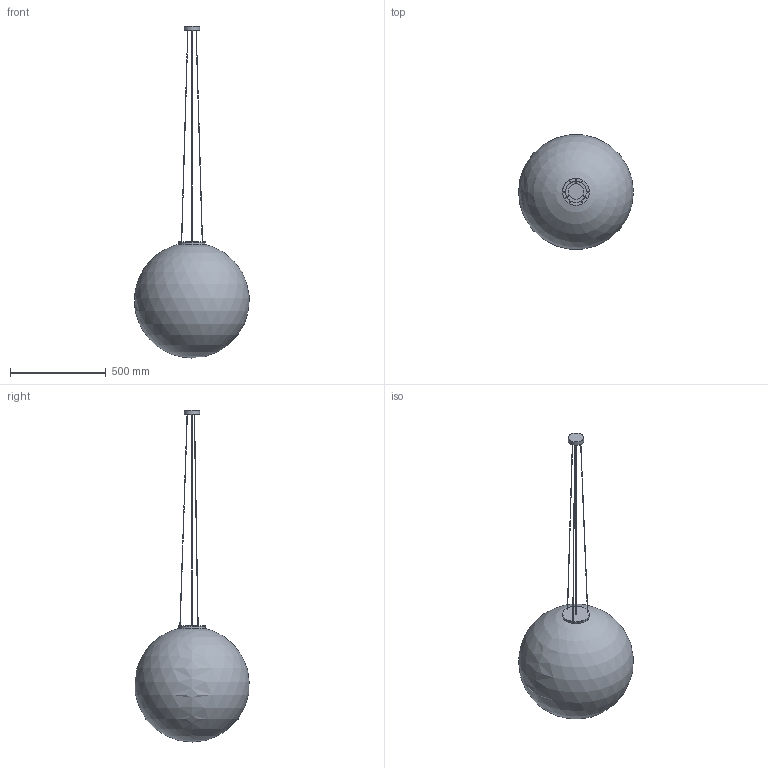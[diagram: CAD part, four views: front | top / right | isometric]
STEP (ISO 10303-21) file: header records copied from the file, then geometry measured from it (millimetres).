
FILE_DESCRIPTION(/* description */ (''),/* implementation_level */ '2;1');
FILE_NAME(/* name */ 'C:/Users/LukasGröber/GMS Cloud/Groeber Mannheim Lichtwerke - Dokumente/Marketing/Produkte/3D Daten/Snowball Pendel Innen/Snowball 60 Pendel Innen.step',/* time_stamp */ '2022-07-08T09:57:03+02:00',/* author */ (''),/* organization */ (''),/* preprocessor_version */ 'ST-DEVELOPER v19',/* originating_system */ 'Autodesk Translation Framework v11.7.0.108',/* authorisation */ '');
FILE_SCHEMA (('AUTOMOTIVE_DESIGN { 1 0 10303 214 3 1 1 }'));
Length unit declared in the file: millimetre
Products named in the file (5): Snowball 60 Pendel Innen; Pendel Innen Aufhängung Kugeln 30-60; Pendel Innen LED Mönskappe (Modell); Baldachin klein Modell; Snowball 600 Öffnung 80
Assembly tree (4 placements, depth 3):
  Snowball 60 Pendel Innen
    Pendel Innen Aufhängung Kugeln 30-60
      Pendel Innen LED Mönskappe (Modell)
      Baldachin klein Modell
    Snowball 600 Öffnung 80
Bounding box: 598.97 x 594.92 x 1729.55 mm (x, y, z)
Volume: 5778341.8 mm3; surface area: 2295449 mm2
Topology: 7 solids, 7 shells, 53 faces, 83 edges, 55 vertices
Faces by surface type: plane 26, cylinder 18, bspline 6, sphere 2, torus 1
Full cylindrical faces by diameter (mm): 1.5 x6, 3 x3, 5 x6, 80 x2, 140 x1
Entity records: 2100 total; most frequent: CARTESIAN_POINT 1004, DIRECTION 214, ORIENTED_EDGE 162, AXIS2_PLACEMENT_3D 98, EDGE_CURVE 81, EDGE_LOOP 66, VERTEX_POINT 55, FACE_OUTER_BOUND 53
